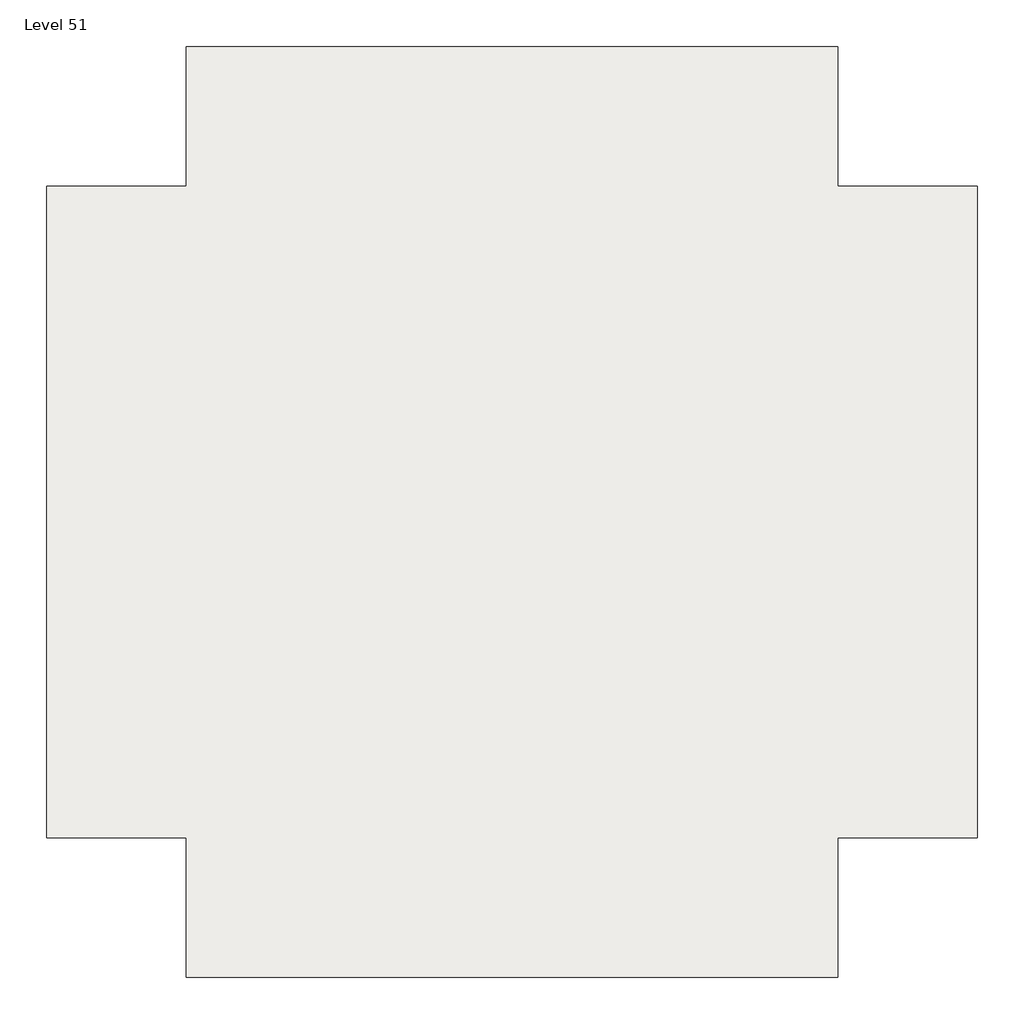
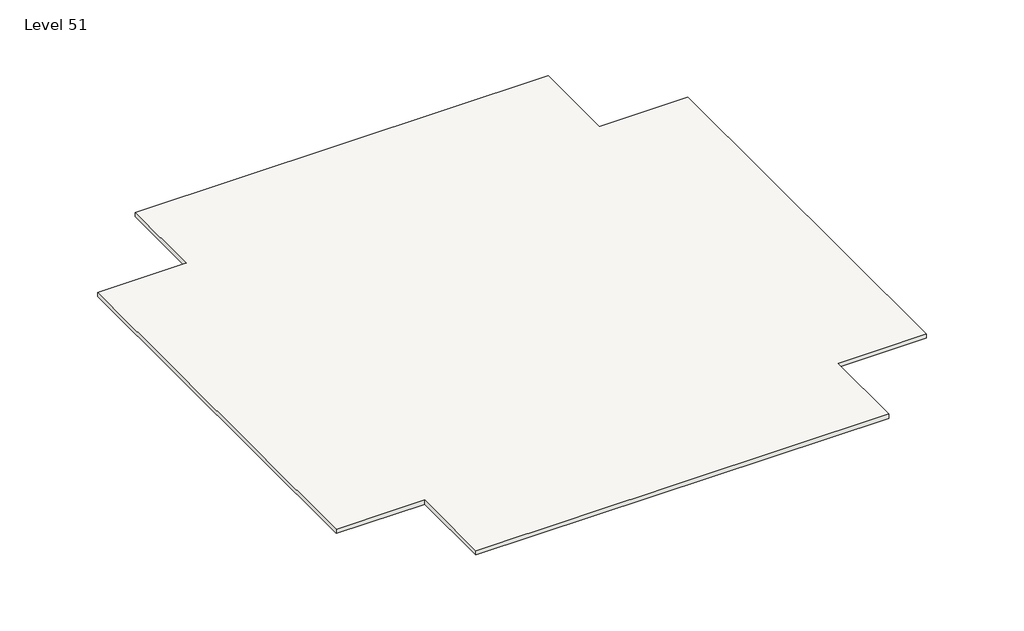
# One storey, incomplete: 1 roof.
"""IFC4 building model written with IfcOpenShell, lengths in millimetres."""

import ifcopenshell
import ifcopenshell.guid

model = None  # the IFC model being written
_history = None  # IfcOwnerHistory: only IFC2X3 demands one
_inside = {}  # id of a spatial element -> (the spatial element, [elements in it])
_under = {}  # id of a project, library or spatial element -> (it, [spatial elements below it])
_declared = {}  # id of a project -> (the project, [libraries it declares])
_typed = {}  # id of a type object -> (the type object, [elements of that type])
_made_of = {}  # id of a material, layer set ... -> (it, [elements and type objects made of it])


def new_model(schema):
    """Start an empty IFC model of exactly this schema.

    Asked for "IFC4X3", IfcOpenShell would pick the latest addendum, in which some entities
    have other attributes; the version numbers below select the first issue.
    IFC2X3 requires an IfcOwnerHistory on every rooted entity: one is made here for all.
    """
    global model, _history
    if schema == "IFC4X3":
        model = ifcopenshell.file(schema_version=(4, 3, 0, 0))
    else:
        model = ifcopenshell.file(schema=schema)
    _inside.clear()
    _under.clear()
    _declared.clear()
    _typed.clear()
    _made_of.clear()
    _history = None
    if model.schema == "IFC2X3":
        org = make("IfcOrganization", Name="unknown")
        user = make(
            "IfcPersonAndOrganization",
            ThePerson=make("IfcPerson", FamilyName="unknown"),
            TheOrganization=org,
        )
        app = make(
            "IfcApplication",
            ApplicationDeveloper=org,
            Version="unknown",
            ApplicationFullName="unknown",
            ApplicationIdentifier="unknown",
        )
        _history = make(
            "IfcOwnerHistory",
            OwningUser=user,
            OwningApplication=app,
            ChangeAction="ADDED",
            CreationDate=0,
        )
    return model


def make(cls, **values):
    """One entity of the class cls with the attributes given. An attribute that is None is left unset."""
    return model.create_entity(
        cls, **{name: value for name, value in values.items() if value is not None}
    )


def rooted(cls, **values):
    """An entity with a GlobalId (a new one), such as an element, a storey or a relation."""
    return make(cls, GlobalId=ifcopenshell.guid.new(), OwnerHistory=_history, **values)


def si_unit(unit_type, name, prefix=None):
    """IfcSIUnit, for example si_unit("LENGTHUNIT", "METRE", prefix="MILLI")."""
    return make("IfcSIUnit", UnitType=unit_type, Prefix=prefix, Name=name)


def assignment(units):
    """IfcUnitAssignment: the units of a project."""
    return None if units is None else make("IfcUnitAssignment", Units=units)


def point(xyz):
    """IfcCartesianPoint."""
    return None if xyz is None else make("IfcCartesianPoint", Coordinates=xyz)


def direction(xyz):
    """IfcDirection."""
    return None if xyz is None else make("IfcDirection", DirectionRatios=xyz)


def frame(location, z_axis=None, x_axis=None):
    """IfcAxis2Placement3D, a coordinate frame: its origin and axes. An axis left out is left unset."""
    return make(
        "IfcAxis2Placement3D",
        Location=point(location),
        Axis=direction(z_axis),
        RefDirection=direction(x_axis),
    )


def origin():
    """The frame at (0, 0, 0) with its axes left unset."""
    return frame((0.0, 0.0, 0.0))


def place(relative_to, where):
    """IfcLocalPlacement: puts the frame where relative to a parent placement (None: the world)."""
    return make(
        "IfcLocalPlacement", PlacementRelTo=relative_to, RelativePlacement=where
    )


def context(
    kind, dimensions, precision=None, world=None, true_north=None, identifier=None
):
    """IfcGeometricRepresentationContext, for example the 3D "Model" context."""
    return make(
        "IfcGeometricRepresentationContext",
        ContextIdentifier=identifier,
        ContextType=kind,
        CoordinateSpaceDimension=dimensions,
        Precision=precision,
        WorldCoordinateSystem=world,
        TrueNorth=true_north,
    )


def project(units=None, contexts=None):
    """IfcProject with its units and contexts."""
    return rooted(
        "IfcProject",
        Name="project",
        RepresentationContexts=contexts,
        UnitsInContext=assignment(units),
    )


def spatial(cls, under=None, at=None, **own):
    """A site, building, storey or space (cls), placed at a placement, below another one or the project."""
    s = rooted(cls, ObjectPlacement=at, **own)
    if under is not None:
        _under.setdefault(under.id(), (under, []))[1].append(s)
    return s


def polyline(points):
    """IfcPolyline through the points."""
    return make("IfcPolyline", Points=[point(p) for p in points])


def outline(outer, holes=None, kind="AREA"):
    """IfcArbitraryClosedProfileDef: a profile drawn as a closed curve; with holes, ...WithVoids."""
    if holes is None:
        return make("IfcArbitraryClosedProfileDef", ProfileType=kind, OuterCurve=outer)
    return make(
        "IfcArbitraryProfileDefWithVoids",
        ProfileType=kind,
        OuterCurve=outer,
        InnerCurves=holes,
    )


def extrude(swept, where, along, depth):
    """IfcExtrudedAreaSolid: the profile swept, set in the frame where, extruded along a direction by depth."""
    return make(
        "IfcExtrudedAreaSolid",
        SweptArea=swept,
        Position=where,
        ExtrudedDirection=direction(along),
        Depth=depth,
    )


def shape(context_of_items, identifier, shape_type, items):
    """IfcShapeRepresentation: the items that make up one representation, for example the "Body"."""
    return make(
        "IfcShapeRepresentation",
        ContextOfItems=context_of_items,
        RepresentationIdentifier=identifier,
        RepresentationType=shape_type,
        Items=items,
    )


def made_of(thing, what):
    """Note that an element or type object is made of a material, layer set ...; save() writes the relation."""
    if what is not None:
        _made_of.setdefault(what.id(), (what, []))[1].append(thing)
    return thing


def element(
    cls,
    number,
    at=None,
    inside=None,
    cuts=None,
    type_object=None,
    material=None,
    context=None,
    identifier="Body",
    shape_type=None,
    held_by="IfcProductDefinitionShape",
    body=None,
    shapes=None,
    **own,
):
    """One element of the class cls, such as IfcWall. Its Tag is "e" and its number.

    at: its placement. inside: the storey or other place that contains it. cuts: it is an
    opening in that element (IfcRelVoidsElement). A single representation is given by context,
    identifier, shape_type and body (its items); several are given by shapes. held_by: the class
    of the entity that holds the representations. save() writes the other relations.
    """
    e = rooted(cls, Tag="e%d" % number, ObjectPlacement=at, **own)
    if body is not None:
        shapes = [shape(context, identifier, shape_type, body)]
    if shapes is not None:
        e.Representation = make(held_by, Representations=shapes)
    if inside is not None:
        _inside.setdefault(inside.id(), (inside, []))[1].append(e)
    if cuts is not None:
        rooted(
            "IfcRelVoidsElement", RelatingBuildingElement=cuts, RelatedOpeningElement=e
        )
    if type_object is not None:
        _typed.setdefault(type_object.id(), (type_object, []))[1].append(e)
    return made_of(e, material)


def aggregate(whole, parts):
    """IfcRelAggregates: a whole, such as a stair, and the parts it consists of."""
    return rooted("IfcRelAggregates", RelatingObject=whole, RelatedObjects=parts)


def save(model, path):
    """Write the relations noted so far, then the file.

    IfcRelAggregates (storeys below a building ...), IfcRelContainedInSpatialStructure (elements
    in a storey), IfcRelDefinesByType, IfcRelAssociatesMaterial and IfcRelDeclares: one each for
    every whole, place, type object, material and project.
    """
    for whole, parts in _under.values():
        aggregate(whole, parts)
    for where, things in _inside.values():
        rooted(
            "IfcRelContainedInSpatialStructure",
            RelatedElements=things,
            RelatingStructure=where,
        )
    for kind, things in _typed.values():
        rooted("IfcRelDefinesByType", RelatedObjects=things, RelatingType=kind)
    for what, things in _made_of.values():
        rooted("IfcRelAssociatesMaterial", RelatedObjects=things, RelatingMaterial=what)
    for by, libraries in _declared.values():
        rooted("IfcRelDeclares", RelatingContext=by, RelatedDefinitions=libraries)
    model.write(path)


model = new_model("IFC4")

# Units and contexts
model_context = context("Model", 3, world=origin())
ifc_project = project(units=[si_unit("LENGTHUNIT", "METRE", prefix="MILLI")], contexts=[model_context])

# Site, building, storey
site = spatial("IfcSite", under=ifc_project)
building = spatial("IfcBuilding", under=site)
storey = spatial("IfcBuildingStorey", under=building, Name="Level 51", Elevation=152400.0)

# Roof
placement = place(None, origin())
element("IfcRoof", 1, ObjectType="Generic - 9\"", at=placement, inside=storey, context=model_context, shape_type="SweptSolid", body=[
    extrude(outline(polyline([(-7150.3629456, 4479.6634547), (-7150.3629456, 9051.6634547), (14185.6370544, 9051.6634547), (14185.6370544, 4479.6634547), (18757.6370544, 4479.6634547), (18757.6370544, -16856.3365453), (14185.6370544, -16856.3365453), (14185.6370544, -21428.3365453), (-7150.3629456, -21428.3365453), (-7150.3629456, -16856.3365453), (-11722.3629456, -16856.3365453), (-11722.3629456, 4479.6634547), (-7150.3629456, 4479.6634547)])), frame((0.0, 0.0, 152171.4), z_axis=(0.0, 0.0, 1.0), x_axis=(1.0, 0.0, 0.0)), (0.0, 0.0, 1.0), 228.6),
])

save(model, "model.ifc")
